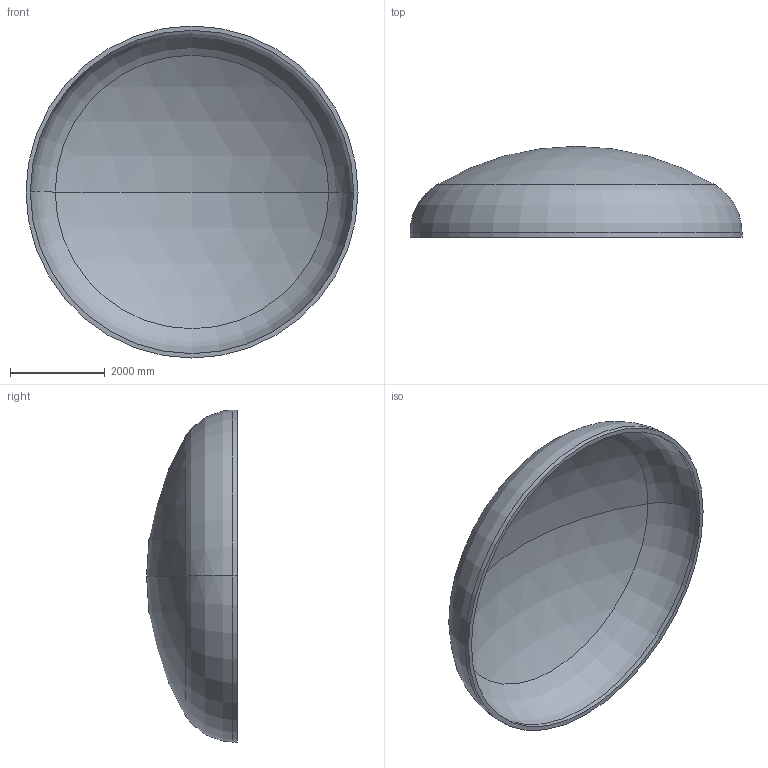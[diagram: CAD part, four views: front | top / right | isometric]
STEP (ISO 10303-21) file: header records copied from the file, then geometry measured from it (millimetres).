
FILE_DESCRIPTION (( 'STEP AP203' ), '1' );
FILE_NAME ('DIN 28013 Korbbogenform_-_Boden DIN 28013 - 7000 x 100 - I - s=92.step', '2016-07-04T10:49:42', ( '' ), ( '' ), 'SwSTEP 2.0', 'SolidWorks 2013', '' );
FILE_SCHEMA (( 'CONFIG_CONTROL_DESIGN' ));
Length unit declared in the file: millimetre
Products named in the file (1): DIN 28013 Korbbogenform_-_Boden DIN 28013 - 7000 x 100 - I - s=92
Bounding box: 7000 x 1917.62 x 7000 mm (x, y, z)
Volume: 5020620876 mm3; surface area: 111158212.7 mm2
Topology: 1 solids, 1 shells, 13 faces, 24 edges, 14 vertices
Faces by surface type: torus 4, cylinder 4, sphere 4, plane 1
Entity records: 407 total; most frequent: DIRECTION 72, CARTESIAN_POINT 52, ORIENTED_EDGE 48, AXIS2_PLACEMENT_3D 34, EDGE_CURVE 24, CIRCLE 20, VERTEX_POINT 14, EDGE_LOOP 14
